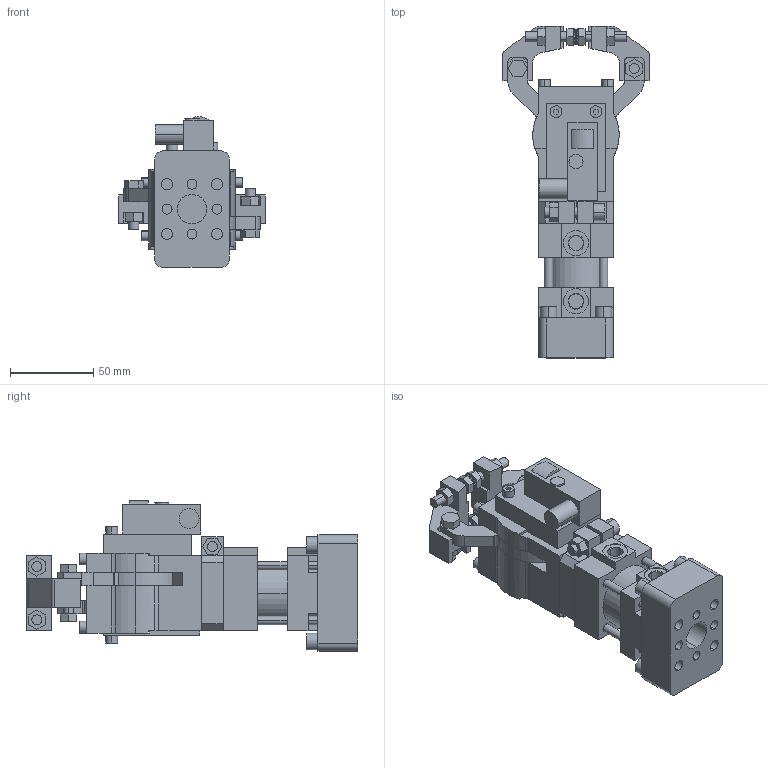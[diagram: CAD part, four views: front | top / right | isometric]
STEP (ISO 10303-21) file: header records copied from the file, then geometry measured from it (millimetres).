
FILE_DESCRIPTION (( 'STEP AP214' ), '1' );
FILE_NAME ('b32_b2sx_pla___a_c.STEP', '2018-05-08T12:54:39', ( 'vepadmin' ), ( 'Hewlett-Packard Company' ), 'SwSTEP 2.0', 'SolidWorks 2018', '' );
FILE_SCHEMA (( 'AUTOMOTIVE_DESIGN' ));
Length unit declared in the file: millimetre
Products named in the file (11): riparo_micro_b32; blocchetto_p&f_90; scatola_micro_b32; tassello_b2_b32; leva_b32b; gruppo_montante_b32b; b32_b2sx_pla___a_c; attacco_c_b32; gruppo_cilindro_piastra_c_b32; distanziale_b32; piedino_zigrinato_M6x25
Assembly tree (15 placements, depth 2):
  b32_b2sx_pla___a_c
    gruppo_montante_b32b
    leva_b32b  x2
    tassello_b2_b32  x2
    scatola_micro_b32
    blocchetto_p&f_90
    riparo_micro_b32
    piedino_zigrinato_M6x25  x4
    distanziale_b32
    gruppo_cilindro_piastra_c_b32
    attacco_c_b32
Bounding box: 88 x 199.5 x 90.6 mm (x, y, z)
Volume: 420045.6 mm3; surface area: 115658.8 mm2
Topology: 15 solids, 15 shells, 1114 faces, 2631 edges, 1720 vertices
Faces by surface type: plane 828, cylinder 280, cone 6
Entity records: 19913 total; most frequent: CARTESIAN_POINT 3466, DIRECTION 3286, ORIENTED_EDGE 3204, EDGE_CURVE 1602, VECTOR 1176, LINE 1176, AXIS2_PLACEMENT_3D 1055, VERTEX_POINT 1055
